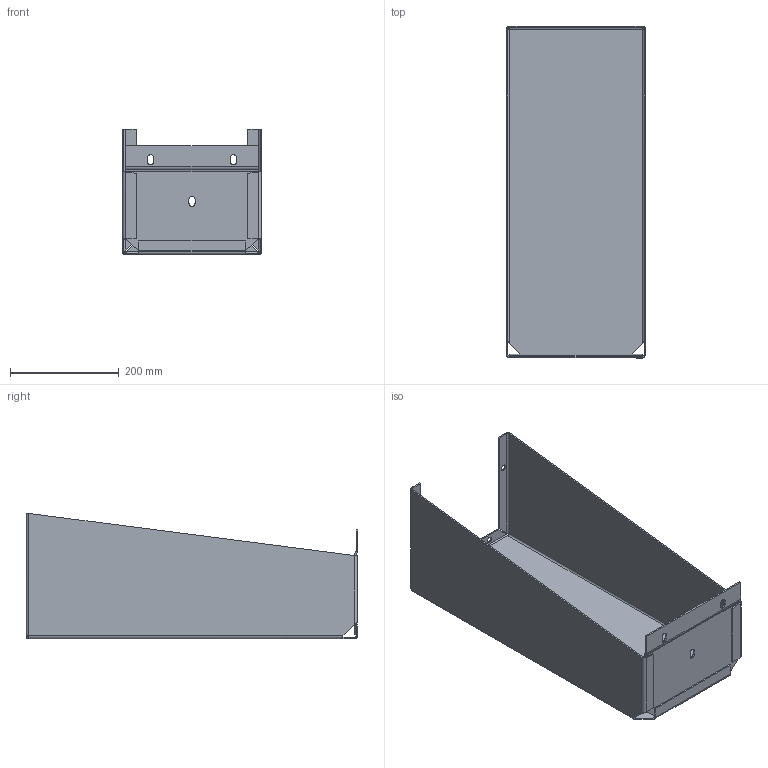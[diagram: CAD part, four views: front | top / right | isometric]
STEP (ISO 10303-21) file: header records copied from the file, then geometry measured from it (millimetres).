
FILE_DESCRIPTION (( 'STEP AP203' ), '1' );
FILE_NAME ('27253.step', '2014-03-07T07:53:02', ( '' ), ( '' ), 'SwSTEP 2.0', 'SolidWorks 2010', '' );
FILE_SCHEMA (( 'CONFIG_CONTROL_DESIGN' ));
Length unit declared in the file: inch
Products named in the file (4): 27253; 89106259; 89106209; 89106161
Assembly tree (3 placements, depth 3):
  27253
    89106259
      89106209
      89106161
Bounding box: 255.57 x 610.77 x 230.96 mm (x, y, z)
Volume: 1123244.4 mm3; surface area: 913906.7 mm2
Topology: 2 solids, 2 shells, 260 faces, 655 edges, 410 vertices
Faces by surface type: plane 126, bspline 97, cylinder 37
Entity records: 11943 total; most frequent: CARTESIAN_POINT 5991, ORIENTED_EDGE 1310, DIRECTION 823, EDGE_CURVE 655, VERTEX_POINT 410, LINE 375, VECTOR 375, EDGE_LOOP 285
